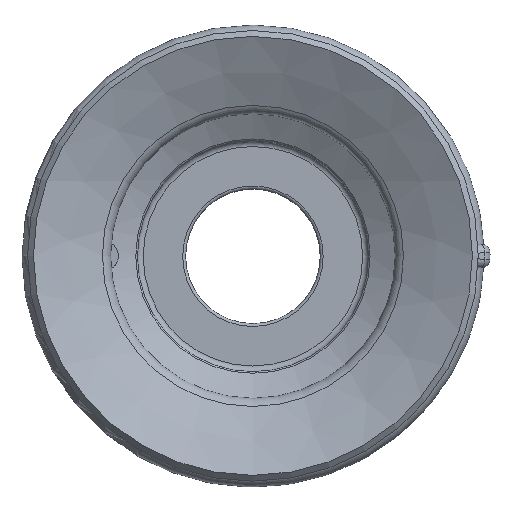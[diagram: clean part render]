
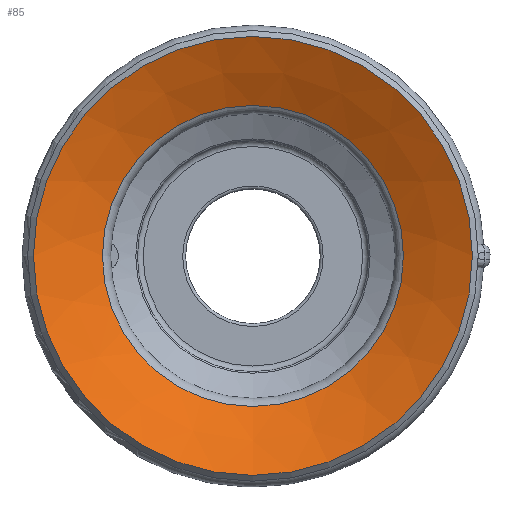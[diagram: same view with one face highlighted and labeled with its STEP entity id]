
A CAD part, top view. The second image highlights one B-rep face of the part: STEP entity #85.
In plain terms, the highlighted conical face has half-angle 64 degrees and reference radius 4.298 mm.
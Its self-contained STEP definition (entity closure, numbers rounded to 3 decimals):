
#85=ADVANCED_FACE('',(#143,#144),#145,.F.);
#143=FACE_BOUND('',#327,.T.);
#144=FACE_OUTER_BOUND('',#328,.T.);
#145=CONICAL_SURFACE('',#329,4.298,1.117);
#327=EDGE_LOOP('',(#510));
#328=EDGE_LOOP('',(#511));
#329=AXIS2_PLACEMENT_3D('',#512,#513,#514);
#510=ORIENTED_EDGE('',*,*,#739,.T.);
#511=ORIENTED_EDGE('',*,*,#738,.T.);
#512=CARTESIAN_POINT('',(0.0,-29.404,-46.998));
#513=DIRECTION('',(-0.0,0.,1.0));
#514=DIRECTION('',(0.0,-1.0,0.));
#738=EDGE_CURVE('',#833,#833,#834,.T.);
#739=EDGE_CURVE('',#835,#835,#836,.T.);
#833=VERTEX_POINT('',#1029);
#834=CIRCLE('',#1030,7.5);
#835=VERTEX_POINT('',#1031);
#836=CIRCLE('',#1032,5.143);
#1029=CARTESIAN_POINT('',(0.0,-36.904,-45.437));
#1030=AXIS2_PLACEMENT_3D('',#1161,#1162,#1163);
#1031=CARTESIAN_POINT('',(0.0,-24.26,-46.586));
#1032=AXIS2_PLACEMENT_3D('',#1164,#1165,#1166);
#1161=CARTESIAN_POINT('',(0.0,-29.404,-45.437));
#1162=DIRECTION('',(0.0,0.,1.0));
#1163=DIRECTION('',(0.0,-1.0,0.));
#1164=CARTESIAN_POINT('',(0.0,-29.404,-46.586));
#1165=DIRECTION('',(0.0,0.,-1.0));
#1166=DIRECTION('',(0.0,1.0,0.));
